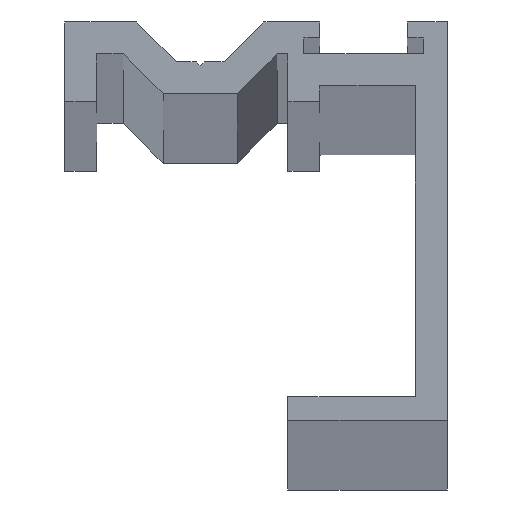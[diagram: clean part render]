
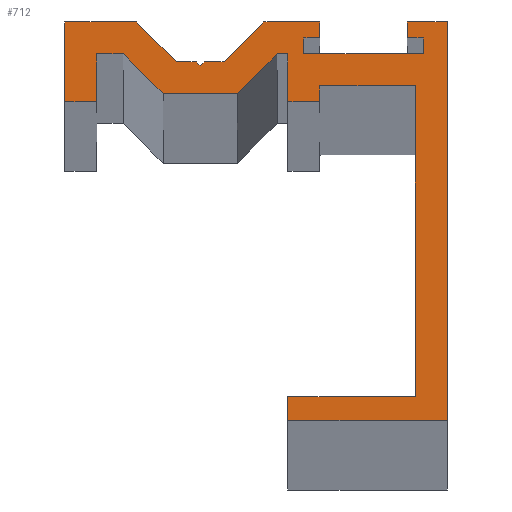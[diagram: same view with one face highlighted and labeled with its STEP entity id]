
A CAD part, top view. The second image highlights one B-rep face of the part: STEP entity #712.
In plain terms, the highlighted planar face has unit normal (0, 0, 1).
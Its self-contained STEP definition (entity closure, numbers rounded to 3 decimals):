
#712=ADVANCED_FACE('',(#1281),#1282,.F.);
#1281=FACE_OUTER_BOUND('',#2051,.T.);
#1282=PLANE('',#2052);
#2051=EDGE_LOOP('',(#2712,#2713,#2714,#2715,#2716,#2717,#2718,#2719,#2720,#2721,#2722,#2723,#2724,#2725,#2726,#2727,#2728,#2729,#2730,#2731,#2732,#2733,#2734,#2735,#2736,#2737,#2738,#2739,#2740,#2741,#2742,#2743,#2744));
#2052=AXIS2_PLACEMENT_3D('',#2745,#2746,#2747);
#2712=ORIENTED_EDGE('',*,*,#3550,.T.);
#2713=ORIENTED_EDGE('',*,*,#3551,.F.);
#2714=ORIENTED_EDGE('',*,*,#3552,.F.);
#2715=ORIENTED_EDGE('',*,*,#3553,.F.);
#2716=ORIENTED_EDGE('',*,*,#3554,.F.);
#2717=ORIENTED_EDGE('',*,*,#3555,.F.);
#2718=ORIENTED_EDGE('',*,*,#3556,.F.);
#2719=ORIENTED_EDGE('',*,*,#3557,.F.);
#2720=ORIENTED_EDGE('',*,*,#3558,.F.);
#2721=ORIENTED_EDGE('',*,*,#3559,.F.);
#2722=ORIENTED_EDGE('',*,*,#3560,.F.);
#2723=ORIENTED_EDGE('',*,*,#3561,.F.);
#2724=ORIENTED_EDGE('',*,*,#3562,.F.);
#2725=ORIENTED_EDGE('',*,*,#3563,.F.);
#2726=ORIENTED_EDGE('',*,*,#3564,.F.);
#2727=ORIENTED_EDGE('',*,*,#3565,.F.);
#2728=ORIENTED_EDGE('',*,*,#3566,.F.);
#2729=ORIENTED_EDGE('',*,*,#3567,.F.);
#2730=ORIENTED_EDGE('',*,*,#3568,.F.);
#2731=ORIENTED_EDGE('',*,*,#3569,.F.);
#2732=ORIENTED_EDGE('',*,*,#3570,.F.);
#2733=ORIENTED_EDGE('',*,*,#3571,.F.);
#2734=ORIENTED_EDGE('',*,*,#3572,.F.);
#2735=ORIENTED_EDGE('',*,*,#3573,.F.);
#2736=ORIENTED_EDGE('',*,*,#3574,.F.);
#2737=ORIENTED_EDGE('',*,*,#3575,.F.);
#2738=ORIENTED_EDGE('',*,*,#3576,.F.);
#2739=ORIENTED_EDGE('',*,*,#3577,.F.);
#2740=ORIENTED_EDGE('',*,*,#3578,.F.);
#2741=ORIENTED_EDGE('',*,*,#3451,.F.);
#2742=ORIENTED_EDGE('',*,*,#3579,.F.);
#2743=ORIENTED_EDGE('',*,*,#3580,.F.);
#2744=ORIENTED_EDGE('',*,*,#3581,.F.);
#2745=CARTESIAN_POINT('',(-5.299,8.099,2500.0));
#2746=DIRECTION('',(-0.0,-0.0,-1.0));
#2747=DIRECTION('',(-1.0,0.0,0.0));
#3451=EDGE_CURVE('',#3987,#3989,#3990,.T.);
#3550=EDGE_CURVE('',#4131,#4132,#4133,.T.);
#3551=EDGE_CURVE('',#4134,#4132,#4135,.T.);
#3552=EDGE_CURVE('',#4136,#4134,#4137,.T.);
#3553=EDGE_CURVE('',#4138,#4136,#4139,.T.);
#3554=EDGE_CURVE('',#4140,#4138,#4141,.T.);
#3555=EDGE_CURVE('',#4142,#4140,#4143,.T.);
#3556=EDGE_CURVE('',#4144,#4142,#4145,.T.);
#3557=EDGE_CURVE('',#4146,#4144,#4147,.T.);
#3558=EDGE_CURVE('',#4148,#4146,#4149,.T.);
#3559=EDGE_CURVE('',#4150,#4148,#4151,.T.);
#3560=EDGE_CURVE('',#4152,#4150,#4153,.T.);
#3561=EDGE_CURVE('',#4154,#4152,#4155,.T.);
#3562=EDGE_CURVE('',#4156,#4154,#4157,.T.);
#3563=EDGE_CURVE('',#4158,#4156,#4159,.T.);
#3564=EDGE_CURVE('',#4160,#4158,#4161,.T.);
#3565=EDGE_CURVE('',#4162,#4160,#4163,.T.);
#3566=EDGE_CURVE('',#4164,#4162,#4165,.T.);
#3567=EDGE_CURVE('',#4166,#4164,#4167,.T.);
#3568=EDGE_CURVE('',#4168,#4166,#4169,.T.);
#3569=EDGE_CURVE('',#4170,#4168,#4171,.T.);
#3570=EDGE_CURVE('',#4172,#4170,#4173,.T.);
#3571=EDGE_CURVE('',#4174,#4172,#4175,.T.);
#3572=EDGE_CURVE('',#4176,#4174,#4177,.T.);
#3573=EDGE_CURVE('',#4178,#4176,#4179,.T.);
#3574=EDGE_CURVE('',#4180,#4178,#4181,.T.);
#3575=EDGE_CURVE('',#4182,#4180,#4183,.T.);
#3576=EDGE_CURVE('',#4184,#4182,#4185,.T.);
#3577=EDGE_CURVE('',#4186,#4184,#4187,.T.);
#3578=EDGE_CURVE('',#3989,#4186,#4188,.T.);
#3579=EDGE_CURVE('',#4189,#3987,#4190,.T.);
#3580=EDGE_CURVE('',#4191,#4189,#4192,.T.);
#3581=EDGE_CURVE('',#4131,#4191,#4193,.T.);
#3987=VERTEX_POINT('',#4447);
#3989=VERTEX_POINT('',#4450);
#3990=LINE('',#4451,#4452);
#4131=VERTEX_POINT('',#4635);
#4132=VERTEX_POINT('',#4636);
#4133=LINE('',#4637,#4638);
#4134=VERTEX_POINT('',#4639);
#4135=LINE('',#4640,#4641);
#4136=VERTEX_POINT('',#4642);
#4137=LINE('',#4643,#4644);
#4138=VERTEX_POINT('',#4645);
#4139=LINE('',#4646,#4647);
#4140=VERTEX_POINT('',#4648);
#4141=LINE('',#4649,#4650);
#4142=VERTEX_POINT('',#4651);
#4143=LINE('',#4652,#4653);
#4144=VERTEX_POINT('',#4654);
#4145=LINE('',#4655,#4656);
#4146=VERTEX_POINT('',#4657);
#4147=LINE('',#4658,#4659);
#4148=VERTEX_POINT('',#4660);
#4149=LINE('',#4661,#4662);
#4150=VERTEX_POINT('',#4663);
#4151=LINE('',#4664,#4665);
#4152=VERTEX_POINT('',#4666);
#4153=LINE('',#4667,#4668);
#4154=VERTEX_POINT('',#4669);
#4155=LINE('',#4670,#4671);
#4156=VERTEX_POINT('',#4672);
#4157=LINE('',#4673,#4674);
#4158=VERTEX_POINT('',#4675);
#4159=LINE('',#4676,#4677);
#4160=VERTEX_POINT('',#4678);
#4161=LINE('',#4679,#4680);
#4162=VERTEX_POINT('',#4681);
#4163=LINE('',#4682,#4683);
#4164=VERTEX_POINT('',#4684);
#4165=LINE('',#4685,#4686);
#4166=VERTEX_POINT('',#4687);
#4167=LINE('',#4688,#4689);
#4168=VERTEX_POINT('',#4690);
#4169=LINE('',#4691,#4692);
#4170=VERTEX_POINT('',#4693);
#4171=LINE('',#4694,#4695);
#4172=VERTEX_POINT('',#4696);
#4173=LINE('',#4697,#4698);
#4174=VERTEX_POINT('',#4699);
#4175=LINE('',#4700,#4701);
#4176=VERTEX_POINT('',#4702);
#4177=LINE('',#4703,#4704);
#4178=VERTEX_POINT('',#4705);
#4179=LINE('',#4706,#4707);
#4180=VERTEX_POINT('',#4708);
#4181=LINE('',#4709,#4710);
#4182=VERTEX_POINT('',#4711);
#4183=LINE('',#4712,#4713);
#4184=VERTEX_POINT('',#4714);
#4185=LINE('',#4715,#4716);
#4186=VERTEX_POINT('',#4717);
#4187=LINE('',#4718,#4719);
#4188=LINE('',#4720,#4721);
#4189=VERTEX_POINT('',#4722);
#4190=LINE('',#4723,#4724);
#4191=VERTEX_POINT('',#4725);
#4192=LINE('',#4726,#4727);
#4193=LINE('',#4728,#4729);
#4447=CARTESIAN_POINT('',(0.0,19.5,2500.0));
#4450=CARTESIAN_POINT('',(-6.0,19.5,2500.0));
#4451=CARTESIAN_POINT('',(0.0,19.5,2500.0));
#4452=VECTOR('',#4993,1.0);
#4635=CARTESIAN_POINT('',(-8.0,-1.5,2500.0));
#4636=CARTESIAN_POINT('',(2.0,-1.5,2500.0));
#4637=CARTESIAN_POINT('',(-7.65,-1.5,2500.0));
#4638=VECTOR('',#5117,1.0);
#4639=CARTESIAN_POINT('',(2.0,23.5,2500.0));
#4640=CARTESIAN_POINT('',(2.0,23.5,2500.0));
#4641=VECTOR('',#5118,1.0);
#4642=CARTESIAN_POINT('',(-0.5,23.5,2500.0));
#4643=CARTESIAN_POINT('',(-0.5,23.5,2500.0));
#4644=VECTOR('',#5119,1.0);
#4645=CARTESIAN_POINT('',(-0.5,22.5,2500.0));
#4646=CARTESIAN_POINT('',(-0.5,22.5,2500.0));
#4647=VECTOR('',#5120,1.0);
#4648=CARTESIAN_POINT('',(0.5,22.5,2500.0));
#4649=CARTESIAN_POINT('',(0.5,22.5,2500.0));
#4650=VECTOR('',#5121,1.0);
#4651=CARTESIAN_POINT('',(0.5,21.5,2500.0));
#4652=CARTESIAN_POINT('',(0.5,21.5,2500.0));
#4653=VECTOR('',#5122,1.0);
#4654=CARTESIAN_POINT('',(-7.0,21.5,2500.0));
#4655=CARTESIAN_POINT('',(-7.0,21.5,2500.0));
#4656=VECTOR('',#5123,1.0);
#4657=CARTESIAN_POINT('',(-7.0,22.5,2500.0));
#4658=CARTESIAN_POINT('',(-7.0,22.5,2500.0));
#4659=VECTOR('',#5124,1.0);
#4660=CARTESIAN_POINT('',(-6.0,22.5,2500.0));
#4661=CARTESIAN_POINT('',(-6.0,22.5,2500.0));
#4662=VECTOR('',#5125,1.0);
#4663=CARTESIAN_POINT('',(-6.0,23.5,2500.0));
#4664=CARTESIAN_POINT('',(-6.0,23.5,2500.0));
#4665=VECTOR('',#5126,1.0);
#4666=CARTESIAN_POINT('',(-9.5,23.5,2500.0));
#4667=CARTESIAN_POINT('',(-9.5,23.5,2500.0));
#4668=VECTOR('',#5127,1.0);
#4669=CARTESIAN_POINT('',(-12.0,21.0,2500.0));
#4670=CARTESIAN_POINT('',(-12.0,21.0,2500.0));
#4671=VECTOR('',#5128,1.);
#4672=CARTESIAN_POINT('',(-13.25,21.0,2500.0));
#4673=CARTESIAN_POINT('',(-13.25,21.0,2500.0));
#4674=VECTOR('',#5129,1.0);
#4675=CARTESIAN_POINT('',(-13.5,20.75,2500.0));
#4676=CARTESIAN_POINT('',(-13.5,20.75,2500.0));
#4677=VECTOR('',#5130,1.);
#4678=CARTESIAN_POINT('',(-13.75,21.0,2500.0));
#4679=CARTESIAN_POINT('',(-13.75,21.0,2500.0));
#4680=VECTOR('',#5131,1.);
#4681=CARTESIAN_POINT('',(-15.0,21.0,2500.0));
#4682=CARTESIAN_POINT('',(-15.0,21.0,2500.0));
#4683=VECTOR('',#5132,1.0);
#4684=CARTESIAN_POINT('',(-17.5,23.5,2500.0));
#4685=CARTESIAN_POINT('',(-17.5,23.5,2500.0));
#4686=VECTOR('',#5133,1.);
#4687=CARTESIAN_POINT('',(-22.0,23.5,2500.0));
#4688=CARTESIAN_POINT('',(-22.0,23.5,2500.0));
#4689=VECTOR('',#5134,1.0);
#4690=CARTESIAN_POINT('',(-22.0,18.5,2500.0));
#4691=CARTESIAN_POINT('',(-22.0,18.5,2500.0));
#4692=VECTOR('',#5135,1.0);
#4693=CARTESIAN_POINT('',(-20.0,18.5,2500.0));
#4694=CARTESIAN_POINT('',(-20.0,18.5,2500.0));
#4695=VECTOR('',#5136,1.0);
#4696=CARTESIAN_POINT('',(-20.0,21.5,2500.0));
#4697=CARTESIAN_POINT('',(-20.0,21.5,2500.0));
#4698=VECTOR('',#5137,1.0);
#4699=CARTESIAN_POINT('',(-18.328,21.5,2500.0));
#4700=CARTESIAN_POINT('',(-18.328,21.5,2500.0));
#4701=VECTOR('',#5138,1.0);
#4702=CARTESIAN_POINT('',(-15.828,19.0,2500.0));
#4703=CARTESIAN_POINT('',(-15.828,19.0,2500.0));
#4704=VECTOR('',#5139,1.);
#4705=CARTESIAN_POINT('',(-11.172,19.0,2500.0));
#4706=CARTESIAN_POINT('',(-11.172,19.0,2500.0));
#4707=VECTOR('',#5140,1.0);
#4708=CARTESIAN_POINT('',(-8.672,21.5,2500.0));
#4709=CARTESIAN_POINT('',(-8.672,21.5,2500.0));
#4710=VECTOR('',#5141,1.);
#4711=CARTESIAN_POINT('',(-8.0,21.5,2500.0));
#4712=CARTESIAN_POINT('',(-8.0,21.5,2500.0));
#4713=VECTOR('',#5142,1.0);
#4714=CARTESIAN_POINT('',(-8.0,18.5,2500.0));
#4715=CARTESIAN_POINT('',(-8.0,18.5,2500.0));
#4716=VECTOR('',#5143,1.0);
#4717=CARTESIAN_POINT('',(-6.0,18.5,2500.0));
#4718=CARTESIAN_POINT('',(-6.0,18.5,2500.0));
#4719=VECTOR('',#5144,1.0);
#4720=CARTESIAN_POINT('',(-6.0,19.5,2500.0));
#4721=VECTOR('',#5145,1.0);
#4722=CARTESIAN_POINT('',(0.0,0.0,2500.0));
#4723=CARTESIAN_POINT('',(0.0,0.5,2500.0));
#4724=VECTOR('',#5146,1.0);
#4725=CARTESIAN_POINT('',(-8.0,0.0,2500.0));
#4726=CARTESIAN_POINT('',(-8.0,0.0,2500.0));
#4727=VECTOR('',#5147,1.0);
#4728=CARTESIAN_POINT('',(-8.0,-20.0,2500.0));
#4729=VECTOR('',#5148,1.0);
#4993=DIRECTION('',(-1.0,0.0,0.0));
#5117=DIRECTION('',(1.0,0.0,0.0));
#5118=DIRECTION('',(0.0,-1.0,0.0));
#5119=DIRECTION('',(1.0,0.0,0.0));
#5120=DIRECTION('',(0.0,1.0,0.0));
#5121=DIRECTION('',(-1.0,0.0,0.0));
#5122=DIRECTION('',(0.0,1.0,0.0));
#5123=DIRECTION('',(1.0,0.0,0.0));
#5124=DIRECTION('',(0.0,-1.0,0.0));
#5125=DIRECTION('',(-1.0,0.0,0.0));
#5126=DIRECTION('',(0.0,-1.0,0.0));
#5127=DIRECTION('',(1.0,0.0,0.0));
#5128=DIRECTION('',(0.707,0.707,0.0));
#5129=DIRECTION('',(1.0,0.0,0.0));
#5130=DIRECTION('',(0.707,0.707,0.0));
#5131=DIRECTION('',(0.707,-0.707,0.0));
#5132=DIRECTION('',(1.0,0.0,0.0));
#5133=DIRECTION('',(0.707,-0.707,0.0));
#5134=DIRECTION('',(1.0,0.0,0.0));
#5135=DIRECTION('',(0.0,1.0,0.0));
#5136=DIRECTION('',(-1.0,0.0,0.0));
#5137=DIRECTION('',(0.0,-1.0,0.0));
#5138=DIRECTION('',(-1.0,0.0,0.0));
#5139=DIRECTION('',(-0.707,0.707,0.0));
#5140=DIRECTION('',(-1.0,0.0,0.0));
#5141=DIRECTION('',(-0.707,-0.707,0.0));
#5142=DIRECTION('',(-1.0,0.0,0.0));
#5143=DIRECTION('',(0.0,1.0,0.0));
#5144=DIRECTION('',(-1.0,0.0,0.0));
#5145=DIRECTION('',(0.0,-1.0,0.0));
#5146=DIRECTION('',(0.0,1.0,0.0));
#5147=DIRECTION('',(1.0,0.0,0.0));
#5148=DIRECTION('',(0.0,1.0,0.0));
